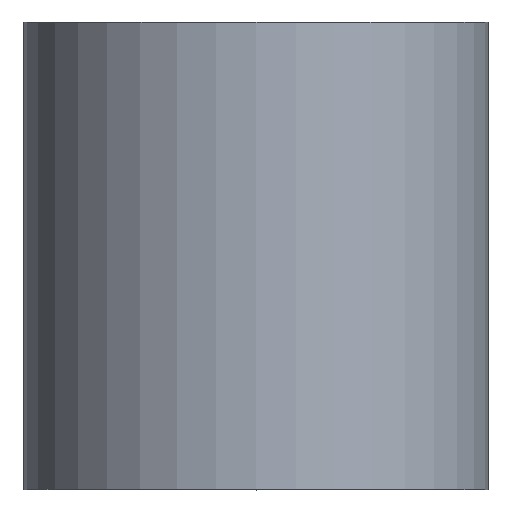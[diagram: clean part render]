
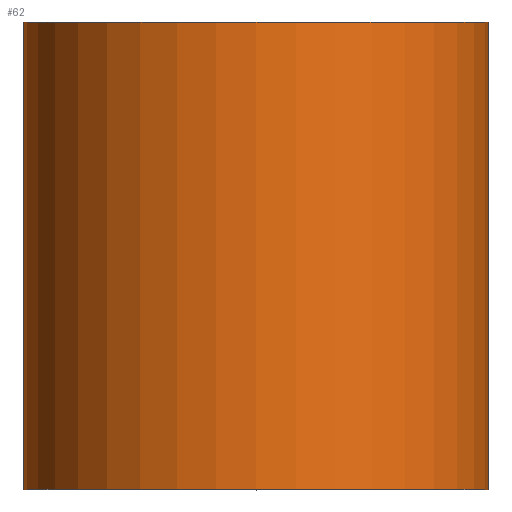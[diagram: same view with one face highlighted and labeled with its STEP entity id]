
A CAD part, top view. The second image highlights one B-rep face of the part: STEP entity #62.
In plain terms, the highlighted cylindrical face has radius 19.05 mm (diameter 38.1 mm), a full revolution.
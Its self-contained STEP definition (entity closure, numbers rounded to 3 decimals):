
#20=FACE_OUTER_BOUND('',#24,.T.);
#24=EDGE_LOOP('',(#51,#52,#53,#54));
#30=LINE('',#118,#32);
#32=VECTOR('',#100,19.05);
#35=CIRCLE('',#83,19.05);
#36=CIRCLE('',#84,19.05);
#39=VERTEX_POINT('',#115);
#40=VERTEX_POINT('',#117);
#44=EDGE_CURVE('',#39,#39,#35,.T.);
#45=EDGE_CURVE('',#39,#40,#30,.T.);
#46=EDGE_CURVE('',#40,#40,#36,.T.);
#51=ORIENTED_EDGE('',*,*,#44,.F.);
#52=ORIENTED_EDGE('',*,*,#45,.T.);
#53=ORIENTED_EDGE('',*,*,#46,.T.);
#54=ORIENTED_EDGE('',*,*,#45,.F.);
#60=CYLINDRICAL_SURFACE('',#82,19.05);
#62=ADVANCED_FACE('',(#20),#60,.T.);
#82=AXIS2_PLACEMENT_3D('',#114,#96,#97);
#83=AXIS2_PLACEMENT_3D('',#116,#98,#99);
#84=AXIS2_PLACEMENT_3D('',#119,#101,#102);
#96=DIRECTION('center_axis',(0.,1.,0.));
#97=DIRECTION('ref_axis',(1.,0.,0.));
#98=DIRECTION('center_axis',(0.,1.,0.));
#99=DIRECTION('ref_axis',(1.,0.,0.));
#100=DIRECTION('',(0.,-1.,0.));
#101=DIRECTION('center_axis',(0.,1.,0.));
#102=DIRECTION('ref_axis',(1.,0.,0.));
#114=CARTESIAN_POINT('Origin',(0.,0.,0.));
#115=CARTESIAN_POINT('',(-19.05,38.354,0.));
#116=CARTESIAN_POINT('Origin',(0.,38.354,0.));
#117=CARTESIAN_POINT('',(-19.05,0.,0.));
#118=CARTESIAN_POINT('',(-19.05,0.,0.));
#119=CARTESIAN_POINT('Origin',(0.,0.,0.));
